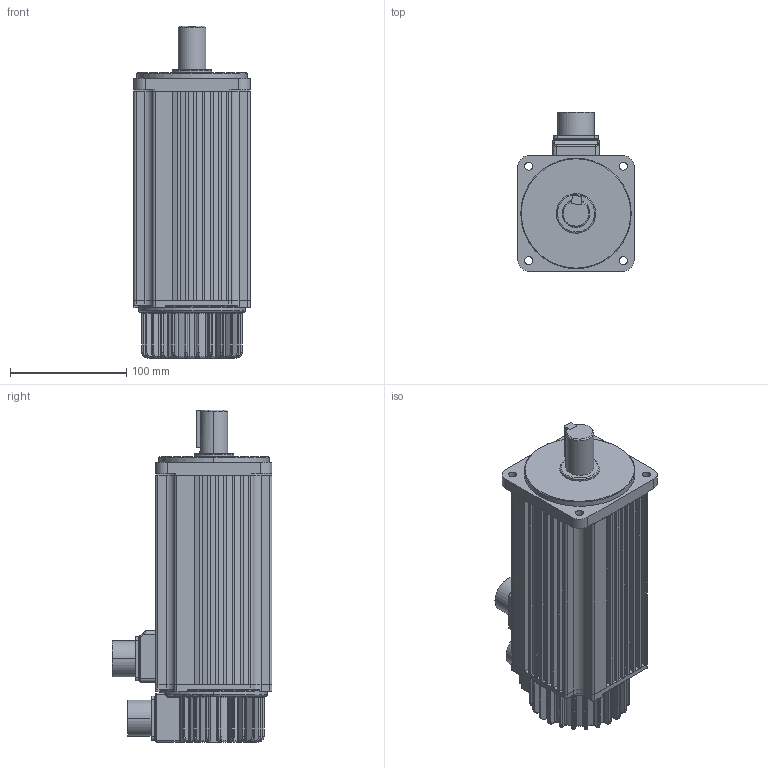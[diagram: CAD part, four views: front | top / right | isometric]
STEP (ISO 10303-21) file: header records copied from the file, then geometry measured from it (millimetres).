
FILE_DESCRIPTION (( 'STEP AP214' ), '1' );
FILE_NAME ('ISMH2-25C30CD-U231Y.STEP', '2017-06-29T05:52:33', ( 'inovance' ), ( '' ), 'SwSTEP 2.0', 'SolidWorks 2016', '' );
FILE_SCHEMA (( 'AUTOMOTIVE_DESIGN' ));
Length unit declared in the file: millimetre
Products named in the file (1): ISMH2-25C30CD-U231Y
Bounding box: 100 x 137.5 x 285.5 mm (x, y, z)
Volume: 1959663.9 mm3; surface area: 265033.2 mm2
Topology: 12 solids, 12 shells, 1028 faces, 2621 edges, 1587 vertices
Faces by surface type: cylinder 465, plane 262, torus 192, sphere 95, bspline 9, cone 5
Entity records: 42338 total; most frequent: CARTESIAN_POINT 5934, DIRECTION 5788, ORIENTED_EDGE 4928, EDGE_CURVE 2464, AXIS2_PLACEMENT_3D 2329, VERTEX_POINT 1500, CIRCLE 1309, EDGE_LOOP 1136
